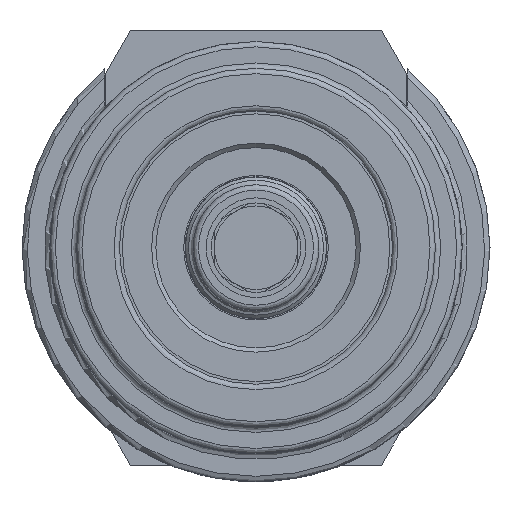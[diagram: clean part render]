
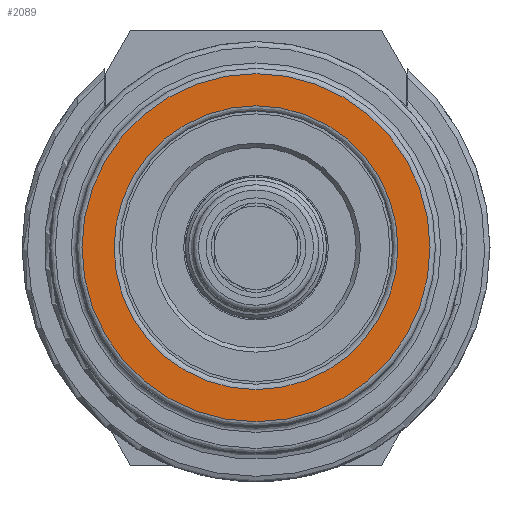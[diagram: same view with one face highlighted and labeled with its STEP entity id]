
A CAD part, front view. The second image highlights one B-rep face of the part: STEP entity #2089.
In plain terms, the highlighted planar face has unit normal (0, -1, 0).
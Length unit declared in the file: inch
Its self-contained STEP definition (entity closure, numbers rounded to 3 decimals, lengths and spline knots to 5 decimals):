
#135=FACE_BOUND('',#352,.T.);
#164=PLANE('',#2290);
#233=FACE_OUTER_BOUND('',#351,.T.);
#351=EDGE_LOOP('',(#1518,#1519));
#352=EDGE_LOOP('',(#1520,#1521));
#743=CIRCLE('',#2287,0.265);
#744=CIRCLE('',#2288,0.265);
#746=CIRCLE('',#2291,0.325);
#747=CIRCLE('',#2292,0.325);
#905=VERTEX_POINT('',#3367);
#906=VERTEX_POINT('',#3369);
#907=VERTEX_POINT('',#3374);
#908=VERTEX_POINT('',#3375);
#1143=EDGE_CURVE('',#905,#906,#743,.T.);
#1144=EDGE_CURVE('',#906,#905,#744,.T.);
#1146=EDGE_CURVE('',#907,#908,#746,.T.);
#1147=EDGE_CURVE('',#908,#907,#747,.T.);
#1518=ORIENTED_EDGE('',*,*,#1146,.F.);
#1519=ORIENTED_EDGE('',*,*,#1147,.F.);
#1520=ORIENTED_EDGE('',*,*,#1144,.F.);
#1521=ORIENTED_EDGE('',*,*,#1143,.F.);
#2089=ADVANCED_FACE('',(#233,#135),#164,.T.);
#2287=AXIS2_PLACEMENT_3D('',#3370,#2643,#2644);
#2288=AXIS2_PLACEMENT_3D('',#3371,#2645,#2646);
#2290=AXIS2_PLACEMENT_3D('',#3373,#2649,#2650);
#2291=AXIS2_PLACEMENT_3D('',#3376,#2651,#2652);
#2292=AXIS2_PLACEMENT_3D('',#3377,#2653,#2654);
#2643=DIRECTION('center_axis',(0.,-1.,0.));
#2644=DIRECTION('ref_axis',(0.,0.,1.));
#2645=DIRECTION('center_axis',(0.,-1.,0.));
#2646=DIRECTION('ref_axis',(0.,0.,1.));
#2649=DIRECTION('center_axis',(0.,-1.,0.));
#2650=DIRECTION('ref_axis',(0.,0.,-1.));
#2651=DIRECTION('center_axis',(0.,1.,0.));
#2652=DIRECTION('ref_axis',(0.,0.,1.));
#2653=DIRECTION('center_axis',(0.,1.,0.));
#2654=DIRECTION('ref_axis',(0.,0.,1.));
#3367=CARTESIAN_POINT('',(0.,0.,0.265));
#3369=CARTESIAN_POINT('',(0.,0.,-0.265));
#3370=CARTESIAN_POINT('Origin',(0.,0.,0.));
#3371=CARTESIAN_POINT('Origin',(0.,0.,0.));
#3373=CARTESIAN_POINT('Origin',(0.,0.,-0.255));
#3374=CARTESIAN_POINT('',(0.,0.,-0.325));
#3375=CARTESIAN_POINT('',(0.,0.,0.325));
#3376=CARTESIAN_POINT('Origin',(0.,0.,0.));
#3377=CARTESIAN_POINT('Origin',(0.,0.,0.));
